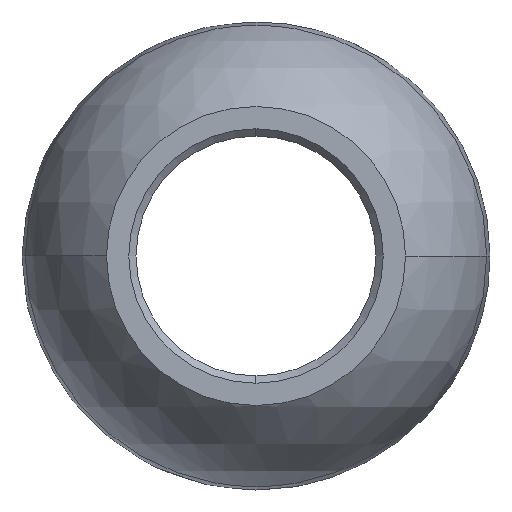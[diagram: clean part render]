
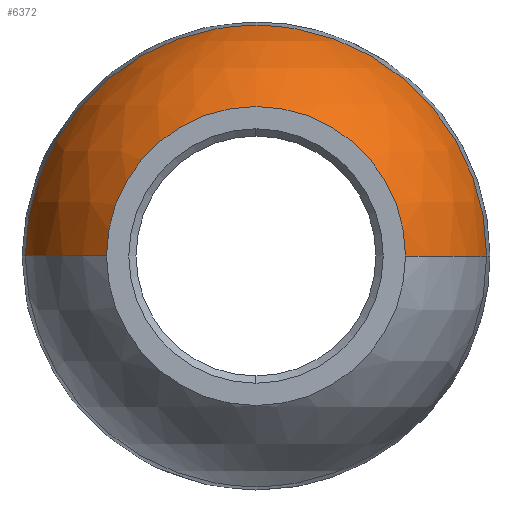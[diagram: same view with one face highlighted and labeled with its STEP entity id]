
A CAD part, front view. The second image highlights one B-rep face of the part: STEP entity #6372.
In plain terms, the highlighted spherical face has radius 24.765 mm.
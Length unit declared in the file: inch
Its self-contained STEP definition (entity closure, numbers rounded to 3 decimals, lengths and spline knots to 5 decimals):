
#77 = DIRECTION ( 'NONE',  ( 0., 0., -1. ) ) ;
#161 = VERTEX_POINT ( 'NONE', #13546 ) ;
#412 = DIRECTION ( 'NONE',  ( 0., 0., 1. ) ) ;
#1346 = CARTESIAN_POINT ( 'NONE',  ( 0.623, -0.75, 0. ) ) ;
#2379 = VERTEX_POINT ( 'NONE', #1346 ) ;
#2590 = CARTESIAN_POINT ( 'NONE',  ( 0., 0., 0. ) ) ;
#2697 = CARTESIAN_POINT ( 'NONE',  ( 0., -0.16446, 0. ) ) ;
#3244 = EDGE_CURVE ( 'NONE', #161, #8513, #8586, .T. ) ;
#3343 = AXIS2_PLACEMENT_3D ( 'NONE', #2590, #412, #12229 ) ;
#3384 = ORIENTED_EDGE ( 'NONE', *, *, #3244, .T. ) ;
#3565 = EDGE_CURVE ( 'NONE', #2379, #8513, #13666, .T. ) ;
#3764 = DIRECTION ( 'NONE',  ( 0., 0., 1. ) ) ;
#4345 = EDGE_LOOP ( 'NONE', ( #5309, #3384, #5299, #7819 ) ) ;
#4530 = CARTESIAN_POINT ( 'NONE',  ( 0., -0.75, 0. ) ) ;
#4910 = SPHERICAL_SURFACE ( 'NONE', #3343, 0.975 ) ;
#5091 = CIRCLE ( 'NONE', #10525, 0.96103 ) ;
#5299 = ORIENTED_EDGE ( 'NONE', *, *, #3565, .F. ) ;
#5309 = ORIENTED_EDGE ( 'NONE', *, *, #12922, .T. ) ;
#5564 = DIRECTION ( 'NONE',  ( 0., 0., -1. ) ) ;
#5900 = DIRECTION ( 'NONE',  ( 0., 0., 1. ) ) ;
#6372 = ADVANCED_FACE ( 'NONE', ( #11605 ), #4910, .T. ) ;
#6444 = CARTESIAN_POINT ( 'NONE',  ( 0., 0., 0. ) ) ;
#7506 = DIRECTION ( 'NONE',  ( -1., 0., 0. ) ) ;
#7819 = ORIENTED_EDGE ( 'NONE', *, *, #11600, .F. ) ;
#8513 = VERTEX_POINT ( 'NONE', #8823 ) ;
#8586 = CIRCLE ( 'NONE', #9767, 0.975 ) ;
#8823 = CARTESIAN_POINT ( 'NONE',  ( -0.623, -0.75, 0. ) ) ;
#9767 = AXIS2_PLACEMENT_3D ( 'NONE', #12349, #5900, #13419 ) ;
#10169 = DIRECTION ( 'NONE',  ( 0., -1., 0. ) ) ;
#10408 = VERTEX_POINT ( 'NONE', #12913 ) ;
#10525 = AXIS2_PLACEMENT_3D ( 'NONE', #2697, #10169, #3764 ) ;
#11471 = CIRCLE ( 'NONE', #12515, 0.975 ) ;
#11600 = EDGE_CURVE ( 'NONE', #10408, #2379, #11471, .T. ) ;
#11605 = FACE_OUTER_BOUND ( 'NONE', #4345, .T. ) ;
#12003 = DIRECTION ( 'NONE',  ( 0., -1., 0. ) ) ;
#12229 = DIRECTION ( 'NONE',  ( 1., 0., 0. ) ) ;
#12349 = CARTESIAN_POINT ( 'NONE',  ( 0., 0., 0. ) ) ;
#12515 = AXIS2_PLACEMENT_3D ( 'NONE', #6444, #77, #7506 ) ;
#12663 = AXIS2_PLACEMENT_3D ( 'NONE', #4530, #12003, #5564 ) ;
#12913 = CARTESIAN_POINT ( 'NONE',  ( 0.96103, -0.16446, 0. ) ) ;
#12922 = EDGE_CURVE ( 'NONE', #10408, #161, #5091, .T. ) ;
#13419 = DIRECTION ( 'NONE',  ( 1., 0., 0. ) ) ;
#13546 = CARTESIAN_POINT ( 'NONE',  ( -0.96103, -0.16446, 0. ) ) ;
#13666 = CIRCLE ( 'NONE', #12663, 0.623 ) ;
